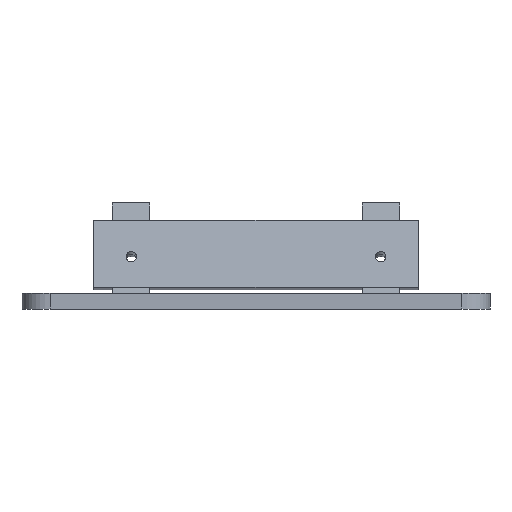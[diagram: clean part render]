
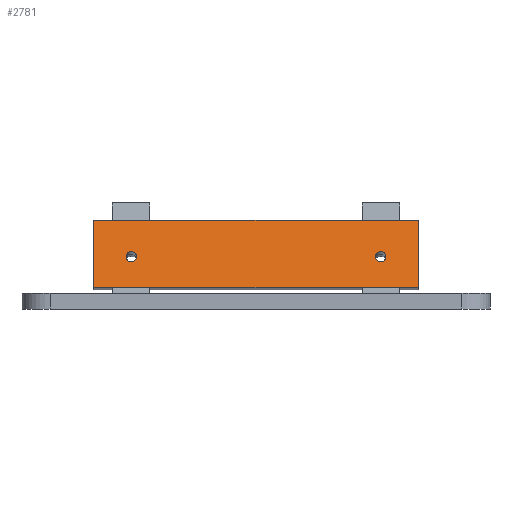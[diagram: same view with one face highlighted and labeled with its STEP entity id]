
A CAD part, front view. The second image highlights one B-rep face of the part: STEP entity #2781.
In plain terms, the highlighted planar face has unit normal (0, -0.978, 0.208).
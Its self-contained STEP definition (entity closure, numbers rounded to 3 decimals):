
#1091 = PLANE('',#1092);
#1092 = AXIS2_PLACEMENT_3D('',#1093,#1094,#1095);
#1093 = CARTESIAN_POINT('',(43.,27.913,6.168));
#1094 = DIRECTION('',(0.,0.208,0.978));
#1095 = DIRECTION('',(0.,-0.978,0.208));
#1223 = PLANE('',#1224);
#1224 = AXIS2_PLACEMENT_3D('',#1225,#1226,#1227);
#1225 = CARTESIAN_POINT('',(43.,32.487,27.688));
#1226 = DIRECTION('',(0.,0.208,0.978));
#1227 = DIRECTION('',(0.,-0.978,0.208));
#2190 = VERTEX_POINT('',#2191);
#2191 = CARTESIAN_POINT('',(43.,24.,7.));
#2205 = PLANE('',#2206);
#2206 = AXIS2_PLACEMENT_3D('',#2207,#2208,#2209);
#2207 = CARTESIAN_POINT('',(43.,27.913,6.168));
#2208 = DIRECTION('',(1.,0.,0.));
#2209 = DIRECTION('',(0.,-0.978,0.208));
#2217 = EDGE_CURVE('',#2190,#2218,#2220,.T.);
#2218 = VERTEX_POINT('',#2219);
#2219 = CARTESIAN_POINT('',(147.,24.,7.));
#2220 = SURFACE_CURVE('',#2221,(#2225,#2232),.PCURVE_S1.);
#2221 = LINE('',#2222,#2223);
#2222 = CARTESIAN_POINT('',(43.,24.,7.));
#2223 = VECTOR('',#2224,1.);
#2224 = DIRECTION('',(1.,0.,0.));
#2225 = PCURVE('',#1091,#2226);
#2226 = DEFINITIONAL_REPRESENTATION('',(#2227),#2231);
#2227 = LINE('',#2228,#2229);
#2228 = CARTESIAN_POINT('',(4.,0.));
#2229 = VECTOR('',#2230,1.);
#2230 = DIRECTION('',(0.,1.));
#2231 = ( GEOMETRIC_REPRESENTATION_CONTEXT(2) 
PARAMETRIC_REPRESENTATION_CONTEXT() REPRESENTATION_CONTEXT('2D SPACE',''
  ) );
#2232 = PCURVE('',#2233,#2238);
#2233 = PLANE('',#2234);
#2234 = AXIS2_PLACEMENT_3D('',#2235,#2236,#2237);
#2235 = CARTESIAN_POINT('',(43.,24.,7.));
#2236 = DIRECTION('',(0.,-0.978,0.208));
#2237 = DIRECTION('',(1.,0.,0.));
#2238 = DEFINITIONAL_REPRESENTATION('',(#2239),#2243);
#2239 = LINE('',#2240,#2241);
#2240 = CARTESIAN_POINT('',(0.,0.));
#2241 = VECTOR('',#2242,1.);
#2242 = DIRECTION('',(1.,0.));
#2243 = ( GEOMETRIC_REPRESENTATION_CONTEXT(2) 
PARAMETRIC_REPRESENTATION_CONTEXT() REPRESENTATION_CONTEXT('2D SPACE',''
  ) );
#2261 = PLANE('',#2262);
#2262 = AXIS2_PLACEMENT_3D('',#2263,#2264,#2265);
#2263 = CARTESIAN_POINT('',(147.,27.913,6.168));
#2264 = DIRECTION('',(1.,0.,0.));
#2265 = DIRECTION('',(0.,-0.978,0.208));
#2375 = VERTEX_POINT('',#2376);
#2376 = CARTESIAN_POINT('',(43.,28.574,28.519));
#2397 = EDGE_CURVE('',#2375,#2398,#2400,.T.);
#2398 = VERTEX_POINT('',#2399);
#2399 = CARTESIAN_POINT('',(147.,28.574,28.519));
#2400 = SURFACE_CURVE('',#2401,(#2405,#2412),.PCURVE_S1.);
#2401 = LINE('',#2402,#2403);
#2402 = CARTESIAN_POINT('',(43.,28.574,28.519));
#2403 = VECTOR('',#2404,1.);
#2404 = DIRECTION('',(1.,0.,0.));
#2405 = PCURVE('',#1223,#2406);
#2406 = DEFINITIONAL_REPRESENTATION('',(#2407),#2411);
#2407 = LINE('',#2408,#2409);
#2408 = CARTESIAN_POINT('',(4.,0.));
#2409 = VECTOR('',#2410,1.);
#2410 = DIRECTION('',(0.,1.));
#2411 = ( GEOMETRIC_REPRESENTATION_CONTEXT(2) 
PARAMETRIC_REPRESENTATION_CONTEXT() REPRESENTATION_CONTEXT('2D SPACE',''
  ) );
#2412 = PCURVE('',#2233,#2413);
#2413 = DEFINITIONAL_REPRESENTATION('',(#2414),#2418);
#2414 = LINE('',#2415,#2416);
#2415 = CARTESIAN_POINT('',(0.,22.));
#2416 = VECTOR('',#2417,1.);
#2417 = DIRECTION('',(1.,0.));
#2418 = ( GEOMETRIC_REPRESENTATION_CONTEXT(2) 
PARAMETRIC_REPRESENTATION_CONTEXT() REPRESENTATION_CONTEXT('2D SPACE',''
  ) );
#2761 = EDGE_CURVE('',#2218,#2398,#2762,.T.);
#2762 = SURFACE_CURVE('',#2763,(#2767,#2774),.PCURVE_S1.);
#2763 = LINE('',#2764,#2765);
#2764 = CARTESIAN_POINT('',(147.,24.,7.));
#2765 = VECTOR('',#2766,1.);
#2766 = DIRECTION('',(0.,0.208,0.978));
#2767 = PCURVE('',#2261,#2768);
#2768 = DEFINITIONAL_REPRESENTATION('',(#2769),#2773);
#2769 = LINE('',#2770,#2771);
#2770 = CARTESIAN_POINT('',(4.,0.));
#2771 = VECTOR('',#2772,1.);
#2772 = DIRECTION('',(0.,-1.));
#2773 = ( GEOMETRIC_REPRESENTATION_CONTEXT(2) 
PARAMETRIC_REPRESENTATION_CONTEXT() REPRESENTATION_CONTEXT('2D SPACE',''
  ) );
#2774 = PCURVE('',#2233,#2775);
#2775 = DEFINITIONAL_REPRESENTATION('',(#2776),#2780);
#2776 = LINE('',#2777,#2778);
#2777 = CARTESIAN_POINT('',(104.,0.));
#2778 = VECTOR('',#2779,1.);
#2779 = DIRECTION('',(0.,1.));
#2780 = ( GEOMETRIC_REPRESENTATION_CONTEXT(2) 
PARAMETRIC_REPRESENTATION_CONTEXT() REPRESENTATION_CONTEXT('2D SPACE',''
  ) );
#2781 = ADVANCED_FACE('',(#2782,#2808,#2843),#2233,.T.);
#2782 = FACE_BOUND('',#2783,.T.);
#2783 = EDGE_LOOP('',(#2784,#2805,#2806,#2807));
#2784 = ORIENTED_EDGE('',*,*,#2785,.F.);
#2785 = EDGE_CURVE('',#2190,#2375,#2786,.T.);
#2786 = SURFACE_CURVE('',#2787,(#2791,#2798),.PCURVE_S1.);
#2787 = LINE('',#2788,#2789);
#2788 = CARTESIAN_POINT('',(43.,24.,7.));
#2789 = VECTOR('',#2790,1.);
#2790 = DIRECTION('',(0.,0.208,0.978));
#2791 = PCURVE('',#2233,#2792);
#2792 = DEFINITIONAL_REPRESENTATION('',(#2793),#2797);
#2793 = LINE('',#2794,#2795);
#2794 = CARTESIAN_POINT('',(0.,0.));
#2795 = VECTOR('',#2796,1.);
#2796 = DIRECTION('',(0.,1.));
#2797 = ( GEOMETRIC_REPRESENTATION_CONTEXT(2) 
PARAMETRIC_REPRESENTATION_CONTEXT() REPRESENTATION_CONTEXT('2D SPACE',''
  ) );
#2798 = PCURVE('',#2205,#2799);
#2799 = DEFINITIONAL_REPRESENTATION('',(#2800),#2804);
#2800 = LINE('',#2801,#2802);
#2801 = CARTESIAN_POINT('',(4.,0.));
#2802 = VECTOR('',#2803,1.);
#2803 = DIRECTION('',(0.,-1.));
#2804 = ( GEOMETRIC_REPRESENTATION_CONTEXT(2) 
PARAMETRIC_REPRESENTATION_CONTEXT() REPRESENTATION_CONTEXT('2D SPACE',''
  ) );
#2805 = ORIENTED_EDGE('',*,*,#2217,.T.);
#2806 = ORIENTED_EDGE('',*,*,#2761,.T.);
#2807 = ORIENTED_EDGE('',*,*,#2397,.F.);
#2808 = FACE_BOUND('',#2809,.T.);
#2809 = EDGE_LOOP('',(#2810));
#2810 = ORIENTED_EDGE('',*,*,#2811,.T.);
#2811 = EDGE_CURVE('',#2812,#2812,#2814,.T.);
#2812 = VERTEX_POINT('',#2813);
#2813 = CARTESIAN_POINT('',(56.65,26.079,16.781));
#2814 = SURFACE_CURVE('',#2815,(#2820,#2831),.PCURVE_S1.);
#2815 = CIRCLE('',#2816,1.65);
#2816 = AXIS2_PLACEMENT_3D('',#2817,#2818,#2819);
#2817 = CARTESIAN_POINT('',(55.,26.079,16.781));
#2818 = DIRECTION('',(0.,0.978,-0.208));
#2819 = DIRECTION('',(1.,0.,0.));
#2820 = PCURVE('',#2233,#2821);
#2821 = DEFINITIONAL_REPRESENTATION('',(#2822),#2830);
#2822 = ( BOUNDED_CURVE() B_SPLINE_CURVE(2,(#2823,#2824,#2825,#2826,
#2827,#2828,#2829),.UNSPECIFIED.,.T.,.F.) B_SPLINE_CURVE_WITH_KNOTS((1,2
    ,2,2,2,1),(-2.094,0.,2.094,4.189,
6.283,8.378),.UNSPECIFIED.) CURVE() 
GEOMETRIC_REPRESENTATION_ITEM() RATIONAL_B_SPLINE_CURVE((1.,0.5,1.,0.5,
1.,0.5,1.)) REPRESENTATION_ITEM('') );
#2823 = CARTESIAN_POINT('',(13.65,10.));
#2824 = CARTESIAN_POINT('',(13.65,7.142));
#2825 = CARTESIAN_POINT('',(11.175,8.571));
#2826 = CARTESIAN_POINT('',(8.7,10.));
#2827 = CARTESIAN_POINT('',(11.175,11.429));
#2828 = CARTESIAN_POINT('',(13.65,12.858));
#2829 = CARTESIAN_POINT('',(13.65,10.));
#2830 = ( GEOMETRIC_REPRESENTATION_CONTEXT(2) 
PARAMETRIC_REPRESENTATION_CONTEXT() REPRESENTATION_CONTEXT('2D SPACE',''
  ) );
#2831 = PCURVE('',#2832,#2837);
#2832 = CYLINDRICAL_SURFACE('',#2833,1.65);
#2833 = AXIS2_PLACEMENT_3D('',#2834,#2835,#2836);
#2834 = CARTESIAN_POINT('',(55.,45.642,12.623));
#2835 = DIRECTION('',(-0.,0.978,-0.208));
#2836 = DIRECTION('',(1.,0.,0.));
#2837 = DEFINITIONAL_REPRESENTATION('',(#2838),#2842);
#2838 = LINE('',#2839,#2840);
#2839 = CARTESIAN_POINT('',(-6.283,-20.));
#2840 = VECTOR('',#2841,1.);
#2841 = DIRECTION('',(1.,-0.));
#2842 = ( GEOMETRIC_REPRESENTATION_CONTEXT(2) 
PARAMETRIC_REPRESENTATION_CONTEXT() REPRESENTATION_CONTEXT('2D SPACE',''
  ) );
#2843 = FACE_BOUND('',#2844,.T.);
#2844 = EDGE_LOOP('',(#2845));
#2845 = ORIENTED_EDGE('',*,*,#2846,.T.);
#2846 = EDGE_CURVE('',#2847,#2847,#2849,.T.);
#2847 = VERTEX_POINT('',#2848);
#2848 = CARTESIAN_POINT('',(136.65,26.079,16.781));
#2849 = SURFACE_CURVE('',#2850,(#2855,#2866),.PCURVE_S1.);
#2850 = CIRCLE('',#2851,1.65);
#2851 = AXIS2_PLACEMENT_3D('',#2852,#2853,#2854);
#2852 = CARTESIAN_POINT('',(135.,26.079,16.781));
#2853 = DIRECTION('',(0.,0.978,-0.208));
#2854 = DIRECTION('',(1.,0.,0.));
#2855 = PCURVE('',#2233,#2856);
#2856 = DEFINITIONAL_REPRESENTATION('',(#2857),#2865);
#2857 = ( BOUNDED_CURVE() B_SPLINE_CURVE(2,(#2858,#2859,#2860,#2861,
#2862,#2863,#2864),.UNSPECIFIED.,.T.,.F.) B_SPLINE_CURVE_WITH_KNOTS((1,2
    ,2,2,2,1),(-2.094,0.,2.094,4.189,
6.283,8.378),.UNSPECIFIED.) CURVE() 
GEOMETRIC_REPRESENTATION_ITEM() RATIONAL_B_SPLINE_CURVE((1.,0.5,1.,0.5,
1.,0.5,1.)) REPRESENTATION_ITEM('') );
#2858 = CARTESIAN_POINT('',(93.65,10.));
#2859 = CARTESIAN_POINT('',(93.65,7.142));
#2860 = CARTESIAN_POINT('',(91.175,8.571));
#2861 = CARTESIAN_POINT('',(88.7,10.));
#2862 = CARTESIAN_POINT('',(91.175,11.429));
#2863 = CARTESIAN_POINT('',(93.65,12.858));
#2864 = CARTESIAN_POINT('',(93.65,10.));
#2865 = ( GEOMETRIC_REPRESENTATION_CONTEXT(2) 
PARAMETRIC_REPRESENTATION_CONTEXT() REPRESENTATION_CONTEXT('2D SPACE',''
  ) );
#2866 = PCURVE('',#2867,#2872);
#2867 = CYLINDRICAL_SURFACE('',#2868,1.65);
#2868 = AXIS2_PLACEMENT_3D('',#2869,#2870,#2871);
#2869 = CARTESIAN_POINT('',(135.,45.642,12.623));
#2870 = DIRECTION('',(-0.,0.978,-0.208));
#2871 = DIRECTION('',(1.,0.,0.));
#2872 = DEFINITIONAL_REPRESENTATION('',(#2873),#2877);
#2873 = LINE('',#2874,#2875);
#2874 = CARTESIAN_POINT('',(-6.283,-20.));
#2875 = VECTOR('',#2876,1.);
#2876 = DIRECTION('',(1.,-0.));
#2877 = ( GEOMETRIC_REPRESENTATION_CONTEXT(2) 
PARAMETRIC_REPRESENTATION_CONTEXT() REPRESENTATION_CONTEXT('2D SPACE',''
  ) );
